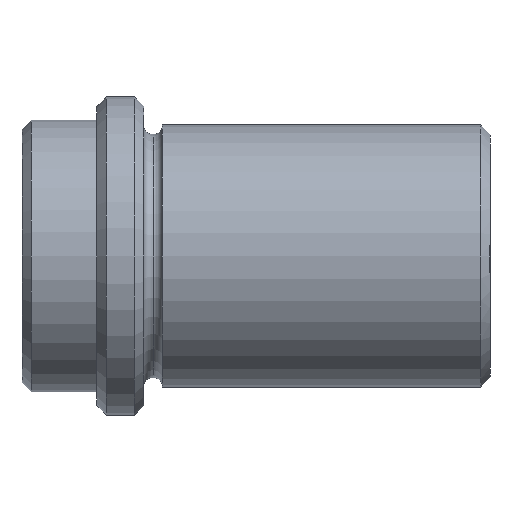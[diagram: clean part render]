
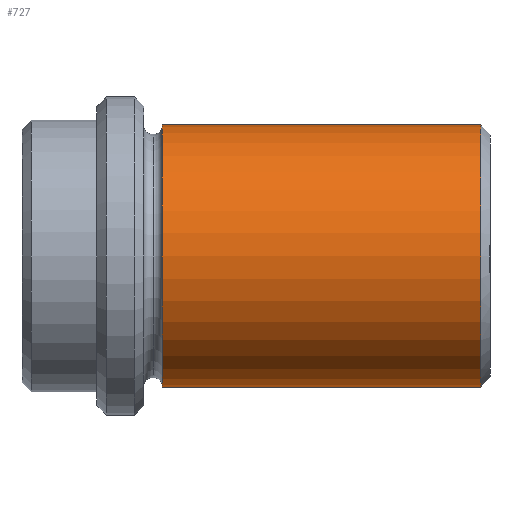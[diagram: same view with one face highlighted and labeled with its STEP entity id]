
A CAD part, left-side view. The second image highlights one B-rep face of the part: STEP entity #727.
In plain terms, the highlighted cylindrical face has radius 14 mm (diameter 28 mm), a partial arc.
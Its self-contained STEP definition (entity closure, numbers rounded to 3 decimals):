
#559=CARTESIAN_POINT('Vertex',(0.,1.,14.)) ;
#566=CARTESIAN_POINT('Vertex',(0.,1.,-14.)) ;
#595=CARTESIAN_POINT('Axis2P3D Location',(0.,1.,0.)) ;
#599=CARTESIAN_POINT('Vertex',(-14.,1.,0.)) ;
#602=CARTESIAN_POINT('Axis2P3D Location',(0.,1.,0.)) ;
#667=CARTESIAN_POINT('Line Origine',(0.,0.,-14.)) ;
#671=CARTESIAN_POINT('Vertex',(0.,35.,-14.)) ;
#685=CARTESIAN_POINT('Vertex',(0.,35.,14.)) ;
#688=CARTESIAN_POINT('Line Origine',(0.,0.,14.)) ;
#702=CARTESIAN_POINT('Axis2P3D Location',(0.,0.,0.)) ;
#707=CARTESIAN_POINT('Axis2P3D Location',(0.,35.,0.)) ;
#711=CARTESIAN_POINT('Vertex',(-14.,35.,0.)) ;
#714=CARTESIAN_POINT('Axis2P3D Location',(0.,35.,0.)) ;
#596=DIRECTION('Axis2P3D Direction',(-0.,1.,0.)) ;
#603=DIRECTION('Axis2P3D Direction',(-0.,1.,0.)) ;
#668=DIRECTION('Vector Direction',(0.,1.,0.)) ;
#689=DIRECTION('Vector Direction',(0.,1.,0.)) ;
#703=DIRECTION('Axis2P3D Direction',(0.,1.,0.)) ;
#704=DIRECTION('Axis2P3D XDirection',(0.,0.,-1.)) ;
#708=DIRECTION('Axis2P3D Direction',(0.,1.,0.)) ;
#715=DIRECTION('Axis2P3D Direction',(0.,1.,0.)) ;
#597=AXIS2_PLACEMENT_3D('Circle Axis2P3D',#595,#596,$) ;
#604=AXIS2_PLACEMENT_3D('Circle Axis2P3D',#602,#603,$) ;
#705=AXIS2_PLACEMENT_3D('Cylinder Axis2P3D',#702,#703,#704) ;
#709=AXIS2_PLACEMENT_3D('Circle Axis2P3D',#707,#708,$) ;
#716=AXIS2_PLACEMENT_3D('Circle Axis2P3D',#714,#715,$) ;
#720=ORIENTED_EDGE('',*,*,#692,.T.) ;
#721=ORIENTED_EDGE('',*,*,#713,.T.) ;
#722=ORIENTED_EDGE('',*,*,#718,.T.) ;
#723=ORIENTED_EDGE('',*,*,#673,.T.) ;
#724=ORIENTED_EDGE('',*,*,#606,.F.) ;
#725=ORIENTED_EDGE('',*,*,#601,.F.) ;
#669=VECTOR('Line Direction',#668,1.) ;
#690=VECTOR('Line Direction',#689,1.) ;
#727=ADVANCED_FACE('CF 439 19x50',(#726),#706,.T.) ;
#598=CIRCLE('generated circle',#597,14.) ;
#605=CIRCLE('generated circle',#604,14.) ;
#710=CIRCLE('generated circle',#709,14.) ;
#717=CIRCLE('generated circle',#716,14.) ;
#706=CYLINDRICAL_SURFACE('generated cylinder',#705,14.) ;
#601=EDGE_CURVE('',#560,#600,#598,.F.) ;
#606=EDGE_CURVE('',#600,#567,#605,.F.) ;
#673=EDGE_CURVE('',#672,#567,#670,.F.) ;
#692=EDGE_CURVE('',#560,#686,#691,.T.) ;
#713=EDGE_CURVE('',#686,#712,#710,.F.) ;
#718=EDGE_CURVE('',#712,#672,#717,.F.) ;
#719=EDGE_LOOP('',(#720,#721,#722,#723,#724,#725)) ;
#726=FACE_OUTER_BOUND('',#719,.T.) ;
#670=LINE('Line',#667,#669) ;
#691=LINE('Line',#688,#690) ;
#560=VERTEX_POINT('',#559) ;
#567=VERTEX_POINT('',#566) ;
#600=VERTEX_POINT('',#599) ;
#672=VERTEX_POINT('',#671) ;
#686=VERTEX_POINT('',#685) ;
#712=VERTEX_POINT('',#711) ;
